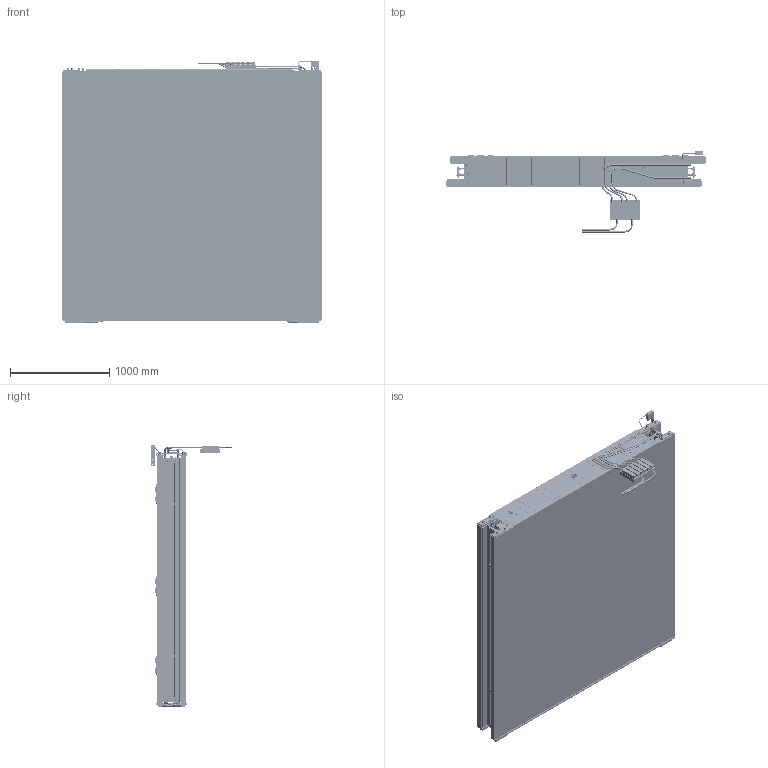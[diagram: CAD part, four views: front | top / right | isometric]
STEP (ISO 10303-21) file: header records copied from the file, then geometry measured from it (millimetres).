
FILE_DESCRIPTION(/* description */ (''),/* implementation_level */ '2;1');
FILE_NAME(/* name */ '040209_mb410_2_4_10_sx_phi_L_carters.stp',/* time_stamp */ '2022-04-13T17:17:19+02:00',/* author */ (''),/* organization */ (''),/* preprocessor_version */ 'ST-DEVELOPER v18.1',/* originating_system */ 'SIEMENS PLM Software NX 1992',/* authorisation */ '');
FILE_SCHEMA (('AUTOMOTIVE_DESIGN { 1 0 10303 214 3 1 1 1 }'));
Products named in the file (1): zago2B10850Da2zt
Bounding box: 2612 x 815.75 x 2646.02 mm (x, y, z)
Volume: 1728371667.4 mm3; surface area: 146650567.9 mm2
Topology: 255 solids, 255 shells, 10956 faces, 27910 edges, 17501 vertices
Faces by surface type: plane 6742, cylinder 3297, cone 719, bspline 110, torus 64, sphere 24
Full cylindrical faces by diameter (mm): 1 x148, 1.675 x8, 2.594 x36, 3 x48, 3.2 x8, 3.25 x2, 3.3 x24, 3.432 x326, 3.5 x38, 4 x34, 4.351 x4, 4.8 x34, 5 x54, 5.188 x44, 5.5 x216, 6 x23, 6.4 x50, 6.5 x17, 7 x2, 7.188 x4, 7.5 x48, 8 x39, 8.6 x4, 8.8 x10, 8.933 x16, 8.985 x24, 9 x2, 9.061 x2, 9.391 x72, 9.5 x66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
Entity records: 340841 total; most frequent: CARTESIAN_POINT 81255, DIRECTION 49918, ORIENTED_EDGE 48826, EDGE_CURVE 24413, AXIS2_PLACEMENT_3D 17555, VERTEX_POINT 16520, EDGE_LOOP 15523, LINE 14808
